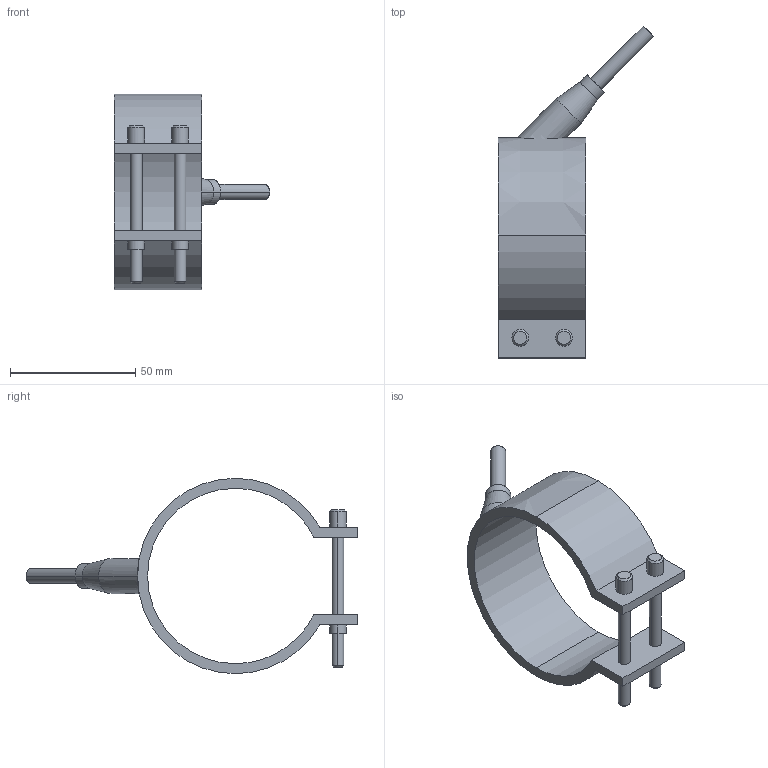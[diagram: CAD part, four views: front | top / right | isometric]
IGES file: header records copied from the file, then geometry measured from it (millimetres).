
Start section: START RECORD GO HERE.
Global section: file name: 29070035.igs; native system: DASSAULT SYSTEMES CATIA V5 R20 - www.3ds.com; preprocessor: CATIA Version 5 Release 20 ; author: Utente; organization: NB04-ASUS; date: 20210327.104339; units: millimetre
Bounding box: 62.05 x 132.55 x 78 mm (x, y, z)
Surface area: 21432.6 mm2 (no closed solid volume)
Topology: 0 solids, 0 shells, 54 faces, 252 edges, 252 vertices
Faces by surface type: revolution 38, plane 16
